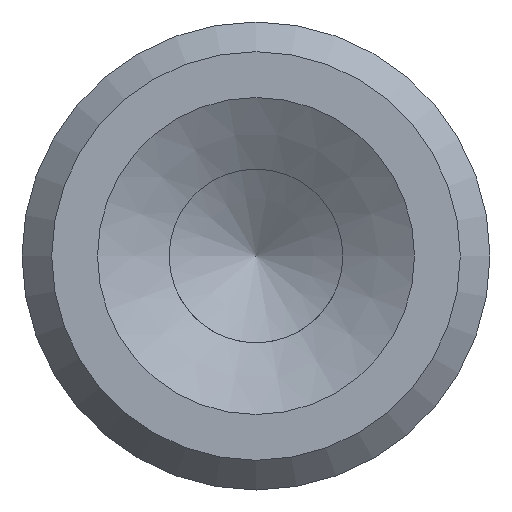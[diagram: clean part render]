
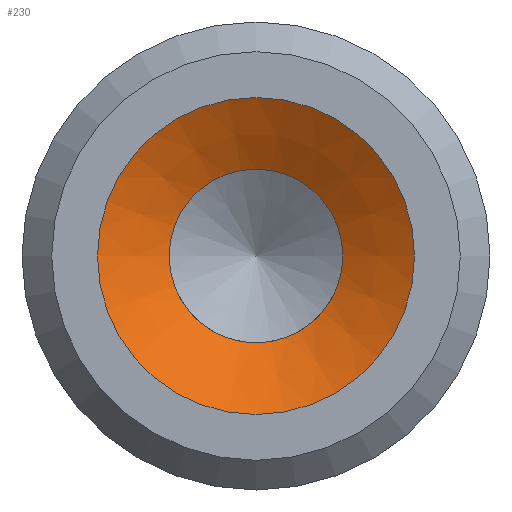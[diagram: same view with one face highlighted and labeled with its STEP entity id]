
A CAD part, left-side view. The second image highlights one B-rep face of the part: STEP entity #230.
In plain terms, the highlighted conical face has half-angle 59 degrees and reference radius 0.267 mm.
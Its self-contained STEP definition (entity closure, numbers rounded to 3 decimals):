
#15=CONICAL_SURFACE($,#259,0.267,59.);
#25=FACE_BOUND($,#79,.T.);
#56=FACE_OUTER_BOUND($,#78,.T.);
#78=EDGE_LOOP($,(#187));
#79=EDGE_LOOP($,(#188));
#112=CIRCLE($,#260,0.292);
#113=CIRCLE($,#261,0.533);
#137=VERTEX_POINT($,#476);
#138=VERTEX_POINT($,#478);
#160=EDGE_CURVE($,#137,#137,#112,.T.);
#161=EDGE_CURVE($,#138,#138,#113,.T.);
#187=ORIENTED_EDGE($,*,*,#160,.F.);
#188=ORIENTED_EDGE($,*,*,#161,.T.);
#230=ADVANCED_FACE($,(#56,#25),#15,.F.);
#259=AXIS2_PLACEMENT_3D($,#475,#313,#314);
#260=AXIS2_PLACEMENT_3D($,#477,#315,#316);
#261=AXIS2_PLACEMENT_3D($,#479,#317,#318);
#313=DIRECTION('center_axis',(-1.,0.,0.));
#314=DIRECTION('ref_axis',(0.,-1.,0.));
#315=DIRECTION('center_axis',(-1.,0.,0.));
#316=DIRECTION('ref_axis',(0.,-1.,0.));
#317=DIRECTION('center_axis',(-1.,0.,0.));
#318=DIRECTION('ref_axis',(0.,-1.,0.));
#475=CARTESIAN_POINT('Origin',(2.268,0.,0.));
#476=CARTESIAN_POINT('',(2.253,0.292,0.));
#477=CARTESIAN_POINT('Origin',(2.253,0.,0.));
#478=CARTESIAN_POINT('',(2.108,-0.533,0.));
#479=CARTESIAN_POINT('Origin',(2.108,0.,0.));
